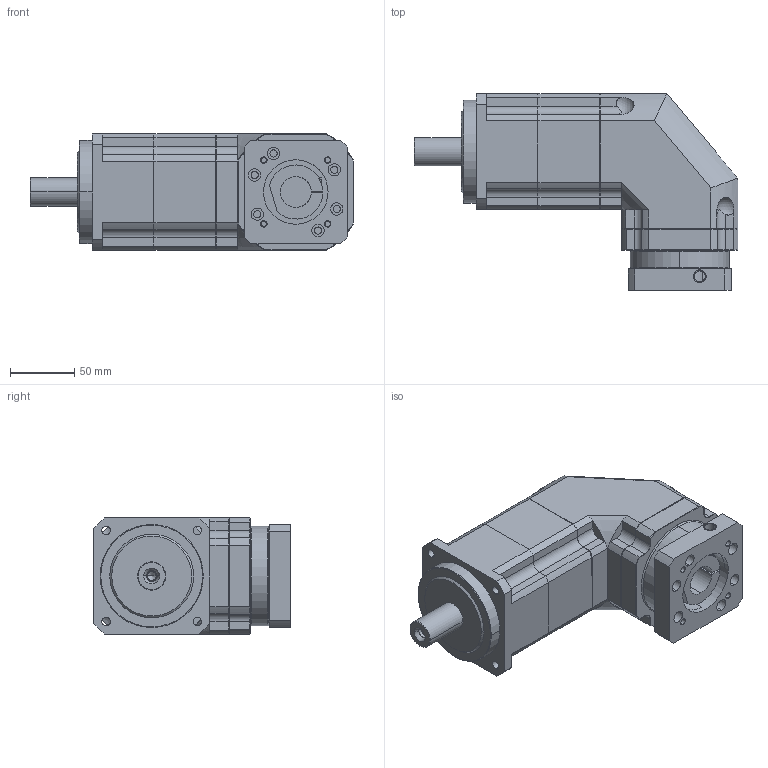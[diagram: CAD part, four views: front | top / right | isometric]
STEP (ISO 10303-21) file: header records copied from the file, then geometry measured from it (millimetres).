
FILE_DESCRIPTION((''),'2;1');
FILE_NAME('ABR090A2-P0403300208_ASM','2021-10-20T',('Administrator'),(''),'PRO/ENGINEER BY PARAMETRIC TECHNOLOGY CORPORATION, 2015240','PRO/ENGINEER BY PARAMETRIC TECHNOLOGY CORPORATION, 2015240','');
FILE_SCHEMA(('CONFIG_CONTROL_DESIGN'));
Length unit declared in the file: millimetre
Products named in the file (8): P1301300001_D; P1051300001_D; AN034A-1; AB090; AB-INPUTSHAFT-3; ABR090A2_ASM; P0403300208-0010; ABR090A2-P0403300208_ASM
Assembly tree (7 placements, depth 3):
  ABR090A2-P0403300208_ASM
    ABR090A2_ASM
      P1301300001_D
      P1051300001_D
      AN034A-1
      AB090
      AB-INPUTSHAFT-3
    P0403300208-0010
Bounding box: 251 x 152.5 x 90 mm (x, y, z)
Volume: 1725750.9 mm3; surface area: 171697.9 mm2
Topology: 6 solids, 13 shells, 398 faces, 974 edges, 612 vertices
Faces by surface type: cylinder 165, plane 160, cone 46, torus 20, sphere 4, bspline 3
Entity records: 12449 total; most frequent: CARTESIAN_POINT 2660, DIRECTION 2143, ORIENTED_EDGE 1909, EDGE_CURVE 969, AXIS2_PLACEMENT_3D 842, VERTEX_POINT 612, VECTOR 459, LINE 459
